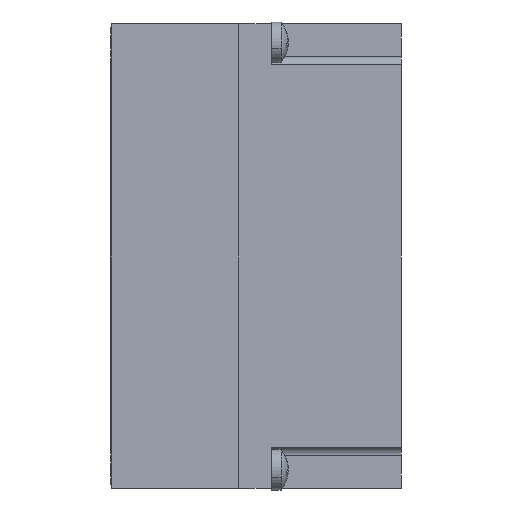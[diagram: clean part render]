
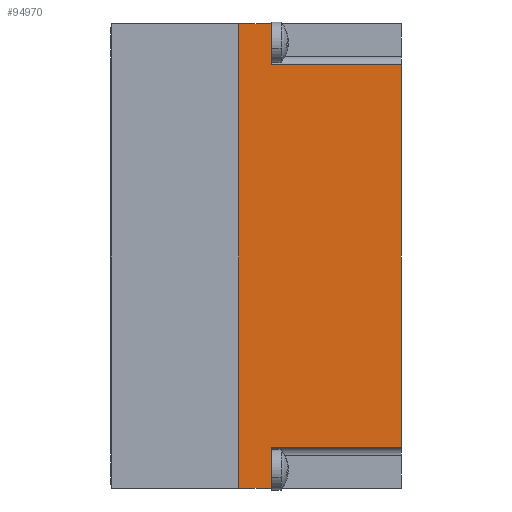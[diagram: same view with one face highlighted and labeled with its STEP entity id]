
A CAD part, left-side view. The second image highlights one B-rep face of the part: STEP entity #94970.
In plain terms, the highlighted planar face has unit normal (-1, 0, 0).
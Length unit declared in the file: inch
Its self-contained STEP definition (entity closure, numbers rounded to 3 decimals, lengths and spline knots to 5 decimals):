
#2571 = LINE ( 'NONE', #172168, #226263 ) ;
#3881 = EDGE_CURVE ( 'NONE', #76769, #158497, #83068, .T. ) ;
#18160 = VECTOR ( 'NONE', #31608, 39.37008 ) ;
#25437 = DIRECTION ( 'NONE',  ( 0., 0., -1. ) ) ;
#29513 = CARTESIAN_POINT ( 'NONE',  ( -2.25197, -0.33694, -2.05315 ) ) ;
#31608 = DIRECTION ( 'NONE',  ( 0., 0., -1. ) ) ;
#34235 = EDGE_CURVE ( 'NONE', #170356, #38036, #80711, .T. ) ;
#38036 = VERTEX_POINT ( 'NONE', #172169 ) ;
#43062 = EDGE_CURVE ( 'NONE', #227533, #162203, #147221, .T. ) ;
#46087 = VERTEX_POINT ( 'NONE', #105993 ) ;
#49644 = CARTESIAN_POINT ( 'NONE',  ( -2.25197, -0.77559, -2.25197 ) ) ;
#51419 = CARTESIAN_POINT ( 'NONE',  ( -2.25197, -0.61811, 0. ) ) ;
#55507 = DIRECTION ( 'NONE',  ( 0., 1., 0. ) ) ;
#62309 = ORIENTED_EDGE ( 'NONE', *, *, #67377, .T. ) ;
#65267 = LINE ( 'NONE', #29513, #133356 ) ;
#67377 = EDGE_CURVE ( 'NONE', #73628, #227533, #107874, .T. ) ;
#71261 = VECTOR ( 'NONE', #153268, 39.37008 ) ;
#71667 = VECTOR ( 'NONE', #140131, 39.37008 ) ;
#73157 = FACE_OUTER_BOUND ( 'NONE', #121533, .T. ) ;
#73628 = VERTEX_POINT ( 'NONE', #162537 ) ;
#74143 = VECTOR ( 'NONE', #25437, 39.37008 ) ;
#76769 = VERTEX_POINT ( 'NONE', #110885 ) ;
#80711 = LINE ( 'NONE', #114135, #74143 ) ;
#83068 = LINE ( 'NONE', #49644, #71261 ) ;
#94970 = ADVANCED_FACE ( 'NONE', ( #73157 ), #160581, .F. ) ;
#99423 = CARTESIAN_POINT ( 'NONE',  ( -2.25197, -1.40551, 0. ) ) ;
#102793 = LINE ( 'NONE', #105108, #161013 ) ;
#105108 = CARTESIAN_POINT ( 'NONE',  ( -2.25197, -0.77559, 0. ) ) ;
#105993 = CARTESIAN_POINT ( 'NONE',  ( -2.25197, -0.77559, -0.19882 ) ) ;
#107874 = LINE ( 'NONE', #175790, #71667 ) ;
#110560 = ORIENTED_EDGE ( 'NONE', *, *, #170076, .F. ) ;
#110885 = CARTESIAN_POINT ( 'NONE',  ( -2.25197, -0.77559, -2.05315 ) ) ;
#114135 = CARTESIAN_POINT ( 'NONE',  ( -2.25197, -1.40551, 0. ) ) ;
#118910 = VECTOR ( 'NONE', #158937, 39.37008 ) ;
#121533 = EDGE_LOOP ( 'NONE', ( #203579, #110560, #62309, #201362, #165404, #191183, #212064, #186993 ) ) ;
#129883 = EDGE_CURVE ( 'NONE', #158497, #162203, #2571, .T. ) ;
#131093 = CARTESIAN_POINT ( 'NONE',  ( -2.25197, -0.61811, 0. ) ) ;
#133356 = VECTOR ( 'NONE', #168949, 39.37008 ) ;
#139381 = LINE ( 'NONE', #172828, #118910 ) ;
#140131 = DIRECTION ( 'NONE',  ( 0., 1., 0. ) ) ;
#140836 = DIRECTION ( 'NONE',  ( 0., 0., -1. ) ) ;
#147221 = LINE ( 'NONE', #131093, #18160 ) ;
#153268 = DIRECTION ( 'NONE',  ( 0., 0., -1. ) ) ;
#158497 = VERTEX_POINT ( 'NONE', #159132 ) ;
#158937 = DIRECTION ( 'NONE',  ( 0., -1., 0. ) ) ;
#159132 = CARTESIAN_POINT ( 'NONE',  ( -2.25197, -0.77559, -2.25197 ) ) ;
#160581 = PLANE ( 'NONE',  #204568 ) ;
#161013 = VECTOR ( 'NONE', #140836, 39.37008 ) ;
#162203 = VERTEX_POINT ( 'NONE', #222759 ) ;
#162537 = CARTESIAN_POINT ( 'NONE',  ( -2.25197, -0.77559, 0. ) ) ;
#165404 = ORIENTED_EDGE ( 'NONE', *, *, #129883, .F. ) ;
#168546 = DIRECTION ( 'NONE',  ( 0., 0., -1. ) ) ;
#168949 = DIRECTION ( 'NONE',  ( 0., -1., 0. ) ) ;
#170076 = EDGE_CURVE ( 'NONE', #73628, #46087, #102793, .T. ) ;
#170356 = VERTEX_POINT ( 'NONE', #206321 ) ;
#172168 = CARTESIAN_POINT ( 'NONE',  ( -2.25197, -1.40551, -2.25197 ) ) ;
#172169 = CARTESIAN_POINT ( 'NONE',  ( -2.25197, -1.40551, -2.05315 ) ) ;
#172828 = CARTESIAN_POINT ( 'NONE',  ( -2.25197, -0.33694, -0.19882 ) ) ;
#175790 = CARTESIAN_POINT ( 'NONE',  ( -2.25197, -1.40551, 0. ) ) ;
#186993 = ORIENTED_EDGE ( 'NONE', *, *, #34235, .F. ) ;
#190772 = EDGE_CURVE ( 'NONE', #76769, #38036, #65267, .T. ) ;
#191183 = ORIENTED_EDGE ( 'NONE', *, *, #3881, .F. ) ;
#198831 = EDGE_CURVE ( 'NONE', #46087, #170356, #139381, .T. ) ;
#201362 = ORIENTED_EDGE ( 'NONE', *, *, #43062, .T. ) ;
#203579 = ORIENTED_EDGE ( 'NONE', *, *, #198831, .F. ) ;
#204568 = AXIS2_PLACEMENT_3D ( 'NONE', #99423, #219380, #168546 ) ;
#206321 = CARTESIAN_POINT ( 'NONE',  ( -2.25197, -1.40551, -0.19882 ) ) ;
#212064 = ORIENTED_EDGE ( 'NONE', *, *, #190772, .T. ) ;
#219380 = DIRECTION ( 'NONE',  ( 1., 0., 0. ) ) ;
#222759 = CARTESIAN_POINT ( 'NONE',  ( -2.25197, -0.61811, -2.25197 ) ) ;
#226263 = VECTOR ( 'NONE', #55507, 39.37008 ) ;
#227533 = VERTEX_POINT ( 'NONE', #51419 ) ;
